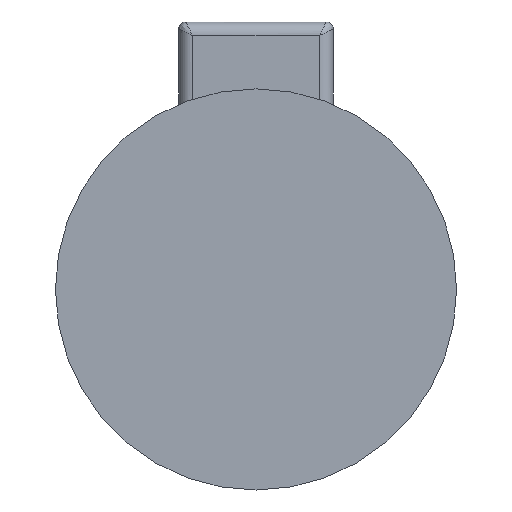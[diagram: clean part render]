
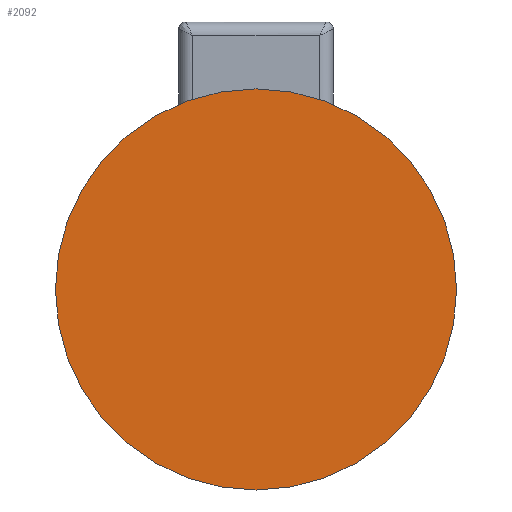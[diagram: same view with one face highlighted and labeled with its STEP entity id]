
A CAD part, front view. The second image highlights one B-rep face of the part: STEP entity #2092.
In plain terms, the highlighted planar face has unit normal (0, -1, 0).
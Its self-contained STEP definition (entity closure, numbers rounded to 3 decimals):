
#142 = DIRECTION ( 'NONE',  ( 0., 1., 0. ) ) ;
#154 = FACE_OUTER_BOUND ( 'NONE', #2206, .T. ) ;
#439 = AXIS2_PLACEMENT_3D ( 'NONE', #2269, #1104, #2398 ) ;
#476 = EDGE_CURVE ( 'NONE', #1960, #1976, #1161, .T. ) ;
#496 = DIRECTION ( 'NONE',  ( 1., 0., 0. ) ) ;
#838 = DIRECTION ( 'NONE',  ( -1., 0., 0. ) ) ;
#976 = CIRCLE ( 'NONE', #439, 58.5 ) ;
#1093 = CARTESIAN_POINT ( 'NONE',  ( 58.5, 68., 0. ) ) ;
#1104 = DIRECTION ( 'NONE',  ( 0., 1., 0. ) ) ;
#1111 = DIRECTION ( 'NONE',  ( 0., -1., 0. ) ) ;
#1161 = CIRCLE ( 'NONE', #1291, 58.5 ) ;
#1266 = ORIENTED_EDGE ( 'NONE', *, *, #476, .F. ) ;
#1291 = AXIS2_PLACEMENT_3D ( 'NONE', #2205, #142, #838 ) ;
#1960 = VERTEX_POINT ( 'NONE', #2135 ) ;
#1976 = VERTEX_POINT ( 'NONE', #1093 ) ;
#2092 = ADVANCED_FACE ( 'NONE', ( #154 ), #2675, .T. ) ;
#2135 = CARTESIAN_POINT ( 'NONE',  ( -58.5, 68., 0. ) ) ;
#2187 = EDGE_CURVE ( 'NONE', #1976, #1960, #976, .T. ) ;
#2205 = CARTESIAN_POINT ( 'NONE',  ( 0., 68., 0. ) ) ;
#2206 = EDGE_LOOP ( 'NONE', ( #1266, #2630 ) ) ;
#2269 = CARTESIAN_POINT ( 'NONE',  ( 0., 68., 0. ) ) ;
#2398 = DIRECTION ( 'NONE',  ( -1., 0., 0. ) ) ;
#2497 = AXIS2_PLACEMENT_3D ( 'NONE', #2724, #1111, #496 ) ;
#2630 = ORIENTED_EDGE ( 'NONE', *, *, #2187, .F. ) ;
#2675 = PLANE ( 'NONE',  #2497 ) ;
#2724 = CARTESIAN_POINT ( 'NONE',  ( -55., 68., -55. ) ) ;
